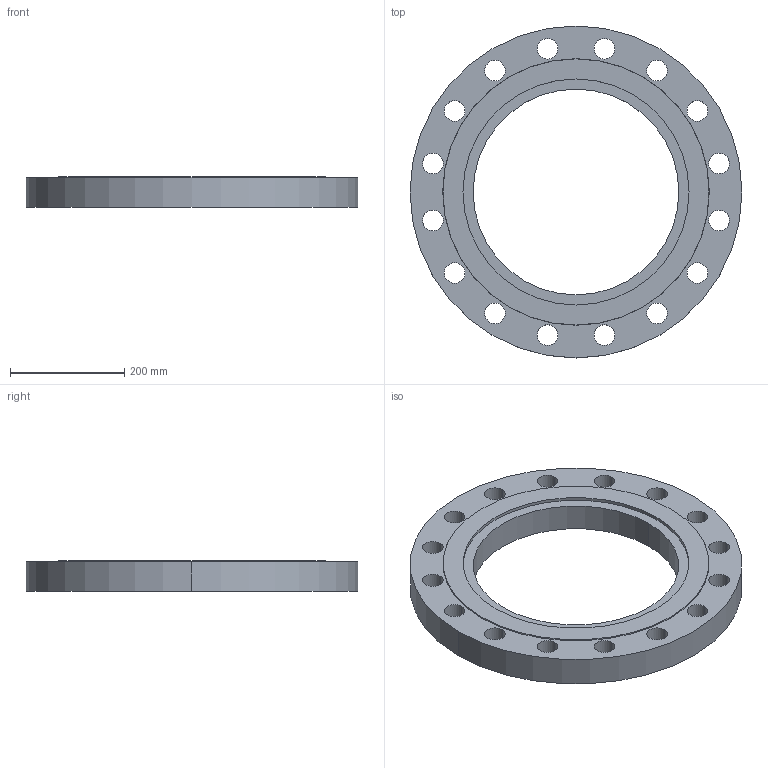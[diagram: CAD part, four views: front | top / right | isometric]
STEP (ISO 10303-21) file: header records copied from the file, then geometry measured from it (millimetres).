
FILE_DESCRIPTION (( 'STEP AP214' ), '1' );
FILE_NAME ('PN40 DN350 Type 01 - Type G Face.STEP', '2019-01-05T21:58:41', ( '' ), ( '' ), 'SwSTEP 2.0', 'SolidWorks 2019', '' );
FILE_SCHEMA (( 'AUTOMOTIVE_DESIGN' ));
Length unit declared in the file: millimetre
Products named in the file (1): PN40 DN350 Type 01 - Type G Face
Bounding box: 580 x 580 x 54 mm (x, y, z)
Volume: 7635126.2 mm3; surface area: 545735.7 mm2
Topology: 1 solids, 1 shells, 44 faces, 120 edges, 80 vertices
Faces by surface type: cylinder 38, plane 4, cone 2
Entity records: 1546 total; most frequent: DIRECTION 290, CARTESIAN_POINT 245, ORIENTED_EDGE 240, AXIS2_PLACEMENT_3D 125, EDGE_CURVE 120, CIRCLE 80, EDGE_LOOP 80, VERTEX_POINT 80
